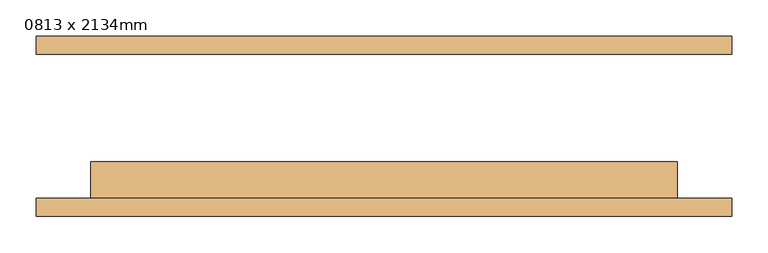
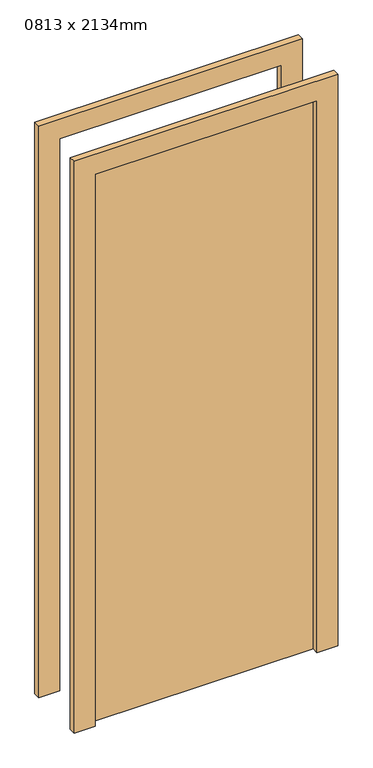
"""IFC4 building model written with IfcOpenShell, lengths in millimetres: door geometry, M_單個嵌平 : 0813 x 2134mm."""

import ifcopenshell
import ifcopenshell.guid

model = None  # the IFC model being written
_history = None  # IfcOwnerHistory: only IFC2X3 demands one
_inside = {}  # id of a spatial element -> (the spatial element, [elements in it])
_under = {}  # id of a project, library or spatial element -> (it, [spatial elements below it])
_declared = {}  # id of a project -> (the project, [libraries it declares])
_typed = {}  # id of a type object -> (the type object, [elements of that type])
_made_of = {}  # id of a material, layer set ... -> (it, [elements and type objects made of it])


def new_model(schema):
    """Start an empty IFC model of exactly this schema.

    Asked for "IFC4X3", IfcOpenShell would pick the latest addendum, in which some entities
    have other attributes; the version numbers below select the first issue.
    IFC2X3 requires an IfcOwnerHistory on every rooted entity: one is made here for all.
    """
    global model, _history
    if schema == "IFC4X3":
        model = ifcopenshell.file(schema_version=(4, 3, 0, 0))
    else:
        model = ifcopenshell.file(schema=schema)
    _inside.clear()
    _under.clear()
    _declared.clear()
    _typed.clear()
    _made_of.clear()
    _history = None
    if model.schema == "IFC2X3":
        org = make("IfcOrganization", Name="unknown")
        user = make(
            "IfcPersonAndOrganization",
            ThePerson=make("IfcPerson", FamilyName="unknown"),
            TheOrganization=org,
        )
        app = make(
            "IfcApplication",
            ApplicationDeveloper=org,
            Version="unknown",
            ApplicationFullName="unknown",
            ApplicationIdentifier="unknown",
        )
        _history = make(
            "IfcOwnerHistory",
            OwningUser=user,
            OwningApplication=app,
            ChangeAction="ADDED",
            CreationDate=0,
        )
    return model


def make(cls, **values):
    """One entity of the class cls with the attributes given. An attribute that is None is left unset."""
    return model.create_entity(
        cls, **{name: value for name, value in values.items() if value is not None}
    )


def rooted(cls, **values):
    """An entity with a GlobalId (a new one), such as an element, a storey or a relation."""
    return make(cls, GlobalId=ifcopenshell.guid.new(), OwnerHistory=_history, **values)


def si_unit(unit_type, name, prefix=None):
    """IfcSIUnit, for example si_unit("LENGTHUNIT", "METRE", prefix="MILLI")."""
    return make("IfcSIUnit", UnitType=unit_type, Prefix=prefix, Name=name)


def assignment(units):
    """IfcUnitAssignment: the units of a project."""
    return None if units is None else make("IfcUnitAssignment", Units=units)


def point(xyz):
    """IfcCartesianPoint."""
    return None if xyz is None else make("IfcCartesianPoint", Coordinates=xyz)


def direction(xyz):
    """IfcDirection."""
    return None if xyz is None else make("IfcDirection", DirectionRatios=xyz)


def frame(location, z_axis=None, x_axis=None):
    """IfcAxis2Placement3D, a coordinate frame: its origin and axes. An axis left out is left unset."""
    return make(
        "IfcAxis2Placement3D",
        Location=point(location),
        Axis=direction(z_axis),
        RefDirection=direction(x_axis),
    )


def origin():
    """The frame at (0, 0, 0) with its axes left unset."""
    return frame((0.0, 0.0, 0.0))


def origin_with_axes():
    """The frame at (0, 0, 0) with the z axis (0, 0, 1) and the x axis (1, 0, 0) written out."""
    return frame((0.0, 0.0, 0.0), z_axis=(0.0, 0.0, 1.0), x_axis=(1.0, 0.0, 0.0))


def place(relative_to, where):
    """IfcLocalPlacement: puts the frame where relative to a parent placement (None: the world)."""
    return make(
        "IfcLocalPlacement", PlacementRelTo=relative_to, RelativePlacement=where
    )


def context(
    kind, dimensions, precision=None, world=None, true_north=None, identifier=None
):
    """IfcGeometricRepresentationContext, for example the 3D "Model" context."""
    return make(
        "IfcGeometricRepresentationContext",
        ContextIdentifier=identifier,
        ContextType=kind,
        CoordinateSpaceDimension=dimensions,
        Precision=precision,
        WorldCoordinateSystem=world,
        TrueNorth=true_north,
    )


def project(units=None, contexts=None):
    """IfcProject with its units and contexts."""
    return rooted(
        "IfcProject",
        Name="project",
        RepresentationContexts=contexts,
        UnitsInContext=assignment(units),
    )


def spatial(cls, under=None, at=None, **own):
    """A site, building, storey or space (cls), placed at a placement, below another one or the project."""
    s = rooted(cls, ObjectPlacement=at, **own)
    if under is not None:
        _under.setdefault(under.id(), (under, []))[1].append(s)
    return s


def polyline(points):
    """IfcPolyline through the points."""
    return make("IfcPolyline", Points=[point(p) for p in points])


def outline(outer, holes=None, kind="AREA"):
    """IfcArbitraryClosedProfileDef: a profile drawn as a closed curve; with holes, ...WithVoids."""
    if holes is None:
        return make("IfcArbitraryClosedProfileDef", ProfileType=kind, OuterCurve=outer)
    return make(
        "IfcArbitraryProfileDefWithVoids",
        ProfileType=kind,
        OuterCurve=outer,
        InnerCurves=holes,
    )


def extrude(swept, where, along, depth):
    """IfcExtrudedAreaSolid: the profile swept, set in the frame where, extruded along a direction by depth."""
    return make(
        "IfcExtrudedAreaSolid",
        SweptArea=swept,
        Position=where,
        ExtrudedDirection=direction(along),
        Depth=depth,
    )


def shape(context_of_items, identifier, shape_type, items):
    """IfcShapeRepresentation: the items that make up one representation, for example the "Body"."""
    return make(
        "IfcShapeRepresentation",
        ContextOfItems=context_of_items,
        RepresentationIdentifier=identifier,
        RepresentationType=shape_type,
        Items=items,
    )


def source(mapping_origin, context_of_items, identifier, shape_type, items):
    """IfcRepresentationMap: a shape defined once, which mapped items show again and again."""
    return make(
        "IfcRepresentationMap",
        MappingOrigin=mapping_origin,
        MappedRepresentation=shape(context_of_items, identifier, shape_type, items),
    )


def transform(
    local_origin,
    x_axis=None,
    y_axis=None,
    z_axis=None,
    scale=None,
    scale2=None,
    scale3=None,
    uniform=True,
):
    """IfcCartesianTransformationOperator3D, or its non-uniform kind. x_axis, y_axis, z_axis: its Axis1, 2, 3."""
    if uniform:
        return make(
            "IfcCartesianTransformationOperator3D",
            Axis1=direction(x_axis),
            Axis2=direction(y_axis),
            LocalOrigin=point(local_origin),
            Scale=scale,
            Axis3=direction(z_axis),
        )
    return make(
        "IfcCartesianTransformationOperator3DnonUniform",
        Axis1=direction(x_axis),
        Axis2=direction(y_axis),
        LocalOrigin=point(local_origin),
        Scale=scale,
        Axis3=direction(z_axis),
        Scale2=scale2,
        Scale3=scale3,
    )


def mapped(mapping_source, mapping_target):
    """IfcMappedItem: shows the shape of a source again, moved by a transform."""
    return make(
        "IfcMappedItem", MappingSource=mapping_source, MappingTarget=mapping_target
    )


def made_of(thing, what):
    """Note that an element or type object is made of a material, layer set ...; save() writes the relation."""
    if what is not None:
        _made_of.setdefault(what.id(), (what, []))[1].append(thing)
    return thing


def element(
    cls,
    number,
    at=None,
    inside=None,
    cuts=None,
    type_object=None,
    material=None,
    context=None,
    identifier="Body",
    shape_type=None,
    held_by="IfcProductDefinitionShape",
    body=None,
    shapes=None,
    **own,
):
    """One element of the class cls, such as IfcWall. Its Tag is "e" and its number.

    at: its placement. inside: the storey or other place that contains it. cuts: it is an
    opening in that element (IfcRelVoidsElement). A single representation is given by context,
    identifier, shape_type and body (its items); several are given by shapes. held_by: the class
    of the entity that holds the representations. save() writes the other relations.
    """
    e = rooted(cls, Tag="e%d" % number, ObjectPlacement=at, **own)
    if body is not None:
        shapes = [shape(context, identifier, shape_type, body)]
    if shapes is not None:
        e.Representation = make(held_by, Representations=shapes)
    if inside is not None:
        _inside.setdefault(inside.id(), (inside, []))[1].append(e)
    if cuts is not None:
        rooted(
            "IfcRelVoidsElement", RelatingBuildingElement=cuts, RelatedOpeningElement=e
        )
    if type_object is not None:
        _typed.setdefault(type_object.id(), (type_object, []))[1].append(e)
    return made_of(e, material)


def aggregate(whole, parts):
    """IfcRelAggregates: a whole, such as a stair, and the parts it consists of."""
    return rooted("IfcRelAggregates", RelatingObject=whole, RelatedObjects=parts)


def save(model, path):
    """Write the relations noted so far, then the file.

    IfcRelAggregates (storeys below a building ...), IfcRelContainedInSpatialStructure (elements
    in a storey), IfcRelDefinesByType, IfcRelAssociatesMaterial and IfcRelDeclares: one each for
    every whole, place, type object, material and project.
    """
    for whole, parts in _under.values():
        aggregate(whole, parts)
    for where, things in _inside.values():
        rooted(
            "IfcRelContainedInSpatialStructure",
            RelatedElements=things,
            RelatingStructure=where,
        )
    for kind, things in _typed.values():
        rooted("IfcRelDefinesByType", RelatedObjects=things, RelatingType=kind)
    for what, things in _made_of.values():
        rooted("IfcRelAssociatesMaterial", RelatedObjects=things, RelatingMaterial=what)
    for by, libraries in _declared.values():
        rooted("IfcRelDeclares", RelatingContext=by, RelatedDefinitions=libraries)
    model.write(path)


def door_0813_x_2134mm_c8a1819b(model_context):
    return source(origin(), model_context, "Body", "SweptSolid", [
        extrude(outline(polyline([(2210.0, -482.5), (0.0, -482.5), (0.0, -406.5), (2134.0, -406.5), (2134.0, 406.5), (0.0, 406.5), (0.0, 482.5), (2210.0, 482.5), (2210.0, -482.5)])), frame((0.0, -125.0, 0.0), z_axis=(0.0, 1.0, 0.0), x_axis=(0.0, 0.0, 1.0)), (0.0, 0.0, 1.0), 25.0),
        extrude(outline(polyline([(2210.0, 482.5), (2210.0, -482.5), (0.0, -482.5), (0.0, -406.5), (2134.0, -406.5), (2134.0, 406.5), (0.0, 406.5), (0.0, 482.5), (2210.0, 482.5)])), frame((0.0, 100.0, 0.0), z_axis=(0.0, 1.0, 0.0), x_axis=(0.0, 0.0, 1.0)), (0.0, 0.0, 1.0), 25.0),
        extrude(outline(polyline([(406.5, -49.0), (406.5, -100.0), (-406.5, -100.0), (-406.5, -49.0), (406.5, -49.0)])), origin_with_axes(), (0.0, 0.0, 1.0), 2134.0),
    ])


if __name__ == "__main__":
    model = new_model("IFC4")
    model_context = context("Model", 3, world=origin())
    ifc_project = project(units=[si_unit("LENGTHUNIT", "METRE", prefix="MILLI")], contexts=[model_context])
    site = spatial("IfcSite", under=ifc_project)
    building = spatial("IfcBuilding", under=site)
    placement = place(None, origin())
    door_0813_x_2134mm_shape = door_0813_x_2134mm_c8a1819b(model_context)
    element("IfcDoor", 1, ObjectType="M_單個嵌平 : 0813 x 2134mm", at=placement, inside=building, context=model_context, shape_type="MappedRepresentation", body=[
        mapped(door_0813_x_2134mm_shape, transform((0.0, 0.0, 0.0), x_axis=(1.0, 0.0, 0.0), y_axis=(0.0, 1.0, 0.0), z_axis=(0.0, 0.0, 1.0))),
    ])
    save(model, "model.ifc")
